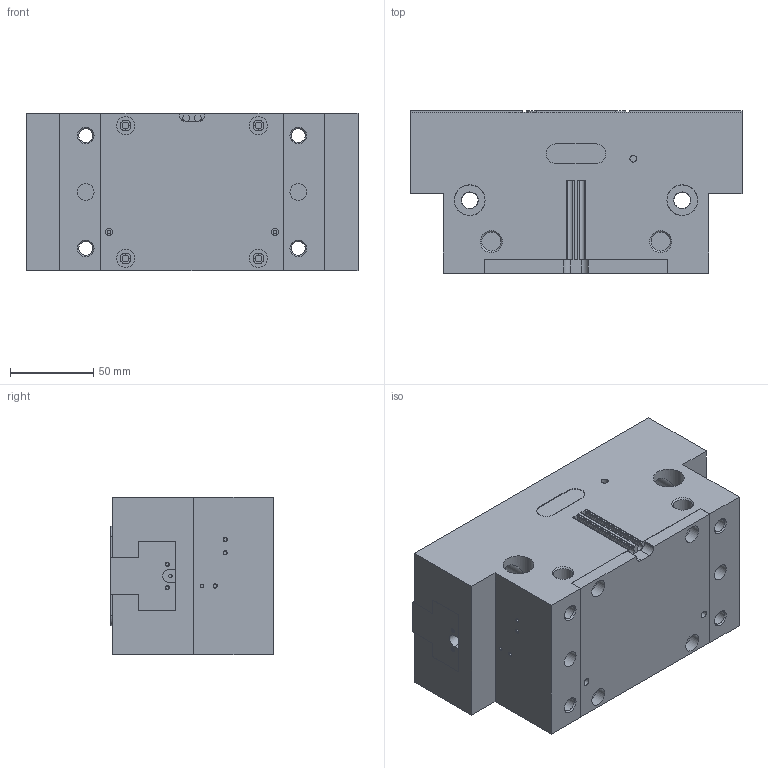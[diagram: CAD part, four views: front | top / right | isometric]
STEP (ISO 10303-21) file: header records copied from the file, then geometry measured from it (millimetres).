
FILE_DESCRIPTION( ( 'STEP AP214' ), '1' );
FILE_NAME( 'C:/Users/ashearer/Desktop/Mindman New CAD/Grippers/MCHS-SD-200_0_.stp', ' ', ( ' ' ), ( ' ' ), 'PSStep 15.0.47', 'PARTsolutions', ' ' );
FILE_SCHEMA( ( 'AUTOMOTIVE_DESIGN { 1 0 10303 214 1 1 1 1 }' ) );
Length unit declared in the file: millimetre
Products named in the file (4): MCHS-SD-200(0); _MCHS-SD-200(dummy_0); _MCHS-SD-200_body; _MCHS-SD-200_finger
Assembly tree (4 placements, depth 2):
  MCHS-SD-200(0)
    _MCHS-SD-200(dummy_0)
    _MCHS-SD-200_body
    _MCHS-SD-200_finger  x2
Bounding box: 200 x 98 x 95 mm (x, y, z)
Volume: 1513986.6 mm3; surface area: 191964.7 mm2
Topology: 3 solids, 3 shells, 360 faces, 850 edges, 552 vertices
Faces by surface type: plane 210, cylinder 96, cone 54
Full cylindrical faces by diameter (mm): 2.013 x14, 2.113 x2, 2.85 x4, 3.8 x4, 4.134 x6, 4.2 x2, 6.4 x4, 8 x2, 8.376 x10, 10 x2, 10.106 x4, 11 x4, 11.445 x4, 14 x6, 16.5 x6, 18.5 x2
Entity records: 10636 total; most frequent: CARTESIAN_POINT 2043, DIRECTION 1312, ORIENTED_EDGE 1070, EDGE_CURVE 535, AXIS2_PLACEMENT_3D 497, EDGE_LOOP 484, VERTEX_POINT 415, FACE_OUTER_BOUND 352
